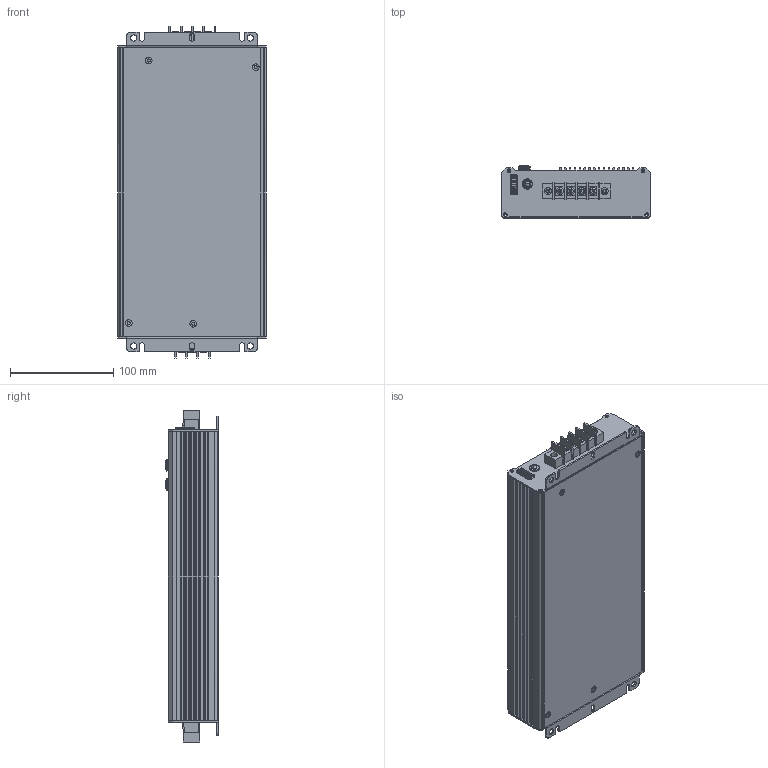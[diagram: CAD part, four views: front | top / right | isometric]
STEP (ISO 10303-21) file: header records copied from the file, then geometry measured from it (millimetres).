
FILE_DESCRIPTION(('Creo Elements/Direct Modeling STEP Export'),'2;1');
FILE_NAME('HEP-1000.stp','2019-10-04T13:27:48',(''),(''),'PTC Creo Elements/Direct Modeling STEP processor for AP214 (Solid Model)','PTC Creo Elements/Direct Modeling 19.0 09-May-2014 (C) Parametric Technology GmbH','');
FILE_SCHEMA(('AUTOMOTIVE_DESIGN { 1 0 10303 214 1 1 1 1 }'));
Length unit declared in the file: millimetre
Products named in the file (744): a2; RD-8OCT-13.STEP; RD-8OCT-12.STEP; RD-8OCT-11.STEP; a1; VEL-4630AM_ASM_6.ASM; VEL-4630.stp; 1FF1-8822.ASM; 1FF1-8822_1871507285.ASM; 77637744.ASM; 1187647648.ASM; 1187647784.ASM; TSW1.ASM; UHP-1000-L100.ASM; 1187651320.ASM; 1187651456.ASM; L100.ASM; 873362896.ASM.14; 873363032.ASM.13; 873362760.ASM.4; CN5.ASM; 1EE4-UHP-1000-TB2.ASM; 1EE4-UHP-1000-TB2_475004475.ASM; 77638696.ASM; 77638832.ASM; TB2.ASM; U950.ASM; C40.ASM; 1CDX-TO220F-A_AKA_-VT-1.PRT; 1CDX-TO220F-A_AKA_-VT-1_3608228.ASM; 77632984.ASM; Q61.ASM; U201.ASM; U101.ASM; TB3.ASM; C917.ASM; C47.ASM; 873206896.ASM; R208.ASM; 873206768.ASM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
Assembly tree (1301 placements, depth 7):
  HEP-1000
    MDHQ-20C____20190918.STEP
    MDHQ-20C_______20191003.STEP
    RD-8OCT-11-5.STEP
    RD-8OCT-12-5.STEP.1
    a5
      S-608W-43-X.STEP.1  x2
        S-608W________.ASM
          _UWX-11_______-_______2_.PRT
          ____-____2.PRT
      RD-8SEP-15.STEP
        RD-8SEP-15_1.ASM
          ____2.PRT
      RD-8OCT-11-5.STEP.1
      RD-8OCT-12-5.STEP
    a4
      HS1
      HS2
      HS4
      MOS
      VR70.ASM
        1AR-_3362W.ASM
          1AR-_3362W_5.PRT
      a1
        下蓋
        a3
          ÊU£\
            ˋ°Ûy
              M3-7L.1.1  x4
          kk
      a2
      a3.1  x2
    333
    pcb
    a3  x2
    ee
    p1
    PCB
    PCB-B
    PCB.1
    ¯¥ˆOXXX
    RD1311028ýíÎX (2).STEP
      RD1311028___X
    RD1311028ýíÎX1.STEP
      RD1311028___X1
        LED2PIN__
    ¤ïÊl.1
    ¤ïÊl
    ¯¥ˆOXXX.1
    SR
    TLED-05¿wÙpÙæÏÿ.STEP
      TLED-05_w_p____
    UHP-1000-0327.step
      BD1.ASM
      PCB.ASM
        J101.ASM
          R2512.ASM
        R472.ASM
          873205872.ASM
        C487.ASM
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Bounding box: 144.01 x 50.51 x 321.8 mm (x, y, z)
Volume: 399319.4 mm3; surface area: 499562.5 mm2
Topology: 41 solids, 41 shells, 1993 faces, 5416 edges, 3560 vertices
Faces by surface type: plane 1337, cylinder 494, extrusion 61, torus 40, cone 30, bspline 26, sphere 5
Entity records: 81312 total; most frequent: CARTESIAN_POINT 21474, DIRECTION 9749, ORIENTED_EDGE 8356, EDGE_CURVE 4178, AXIS2_PLACEMENT_3D 3441, VECTOR 2867, LINE 2806, VERTEX_POINT 2732
